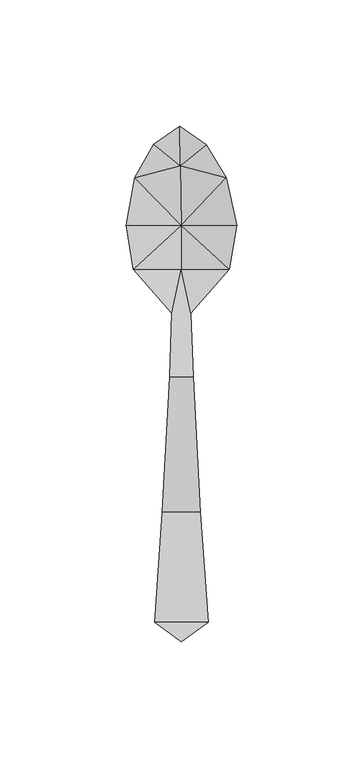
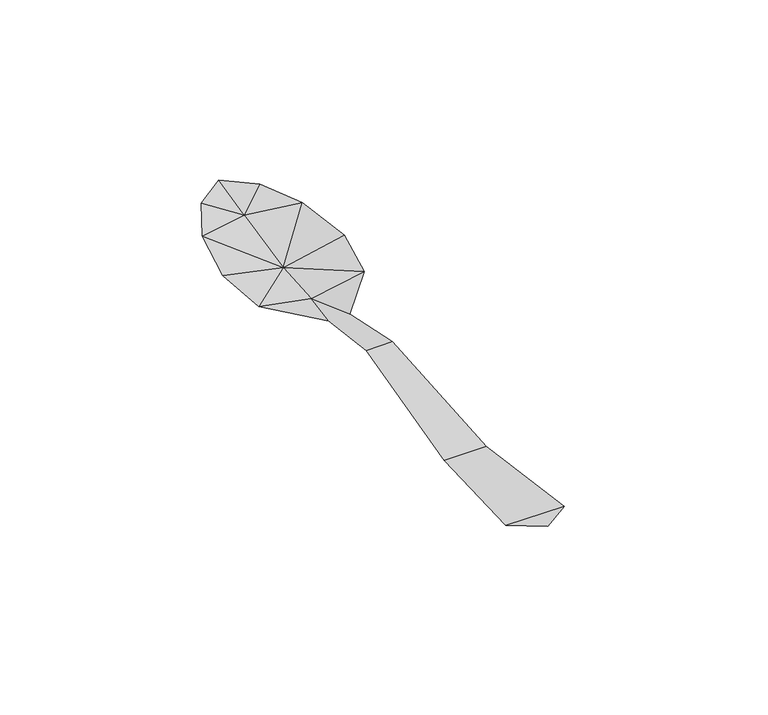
"""IFC4 building model written with IfcOpenShell, lengths in millimetres: geographic element geometry, Enscape AssetDefinition - Cutlery 004 Spoon : Enscape AssetDefinition - Cutlery 004 Spoon."""

from ifc_helpers import new_model, si_unit, origin, place, context, project, spatial, triangles, source, transform, mapped, element, save


def geographic_element_9f73c0b1(model_context):
    return source(origin(), model_context, "Body", "Tessellation", [
        triangles([(0.0, -102.4190119, 5.3321566), (-19.0861783, 45.4405267, 6.3600298), (-3.8040448, 27.990018, 6.0028614), (0.0, 45.4222593, 2.7396427), (-4.6726129, 2.8948888, 10.3781717), (4.6726129, 2.8948888, 10.3781717), (3.8040448, 27.990018, 6.0028614), (19.0861783, 45.4405267, 6.3600298), (-21.9678747, 62.9011842, 8.6643734), (0.0, 62.8768261, 3.9623351), (-18.4540301, 81.8412345, 11.0620678), (21.9678747, 62.9011842, 8.6643734), (17.7883969, 81.8412345, 11.0620678), (9.9033006, 94.9286261, 12.9432893), (-0.5925746, 102.3083991, 13.6779203), (-11.0559794, 95.0554534, 12.9432893), (-0.4667539, 86.5666183, 9.8271993), (-7.5705459, -50.9411175, 1.8933974), (7.5705459, -50.9411175, 1.8933974), (-10.5973432, -94.5186856, 4.4879406), (10.5973432, -94.5186856, 4.4879406)], [[21, 20, 1], [20, 21, 19], [18, 20, 19], [18, 19, 6], [14, 15, 17], [15, 16, 17], [13, 14, 17], [16, 11, 17], [10, 12, 13], [10, 17, 11], [8, 12, 10], [10, 13, 17], [9, 10, 11], [10, 9, 2], [10, 2, 4], [8, 10, 4], [7, 8, 4], [5, 6, 7], [5, 18, 6], [3, 7, 4], [3, 4, 2], [3, 5, 7]], closed=False),
    ])


if __name__ == "__main__":
    model = new_model("IFC4")
    model_context = context("Model", 3, world=origin())
    ifc_project = project(units=[si_unit("LENGTHUNIT", "METRE", prefix="MILLI")], contexts=[model_context])
    site = spatial("IfcSite", under=ifc_project)
    building = spatial("IfcBuilding", under=site)
    placement = place(None, origin())
    geographic_element_shape = geographic_element_9f73c0b1(model_context)
    element("IfcGeographicElement", 1, ObjectType="Enscape AssetDefinition - Cutlery 004 Spoon : Enscape AssetDefinition - Cutlery 004 Spoon", at=placement, inside=building, context=model_context, shape_type="MappedRepresentation", body=[
        mapped(geographic_element_shape, transform((0.0, 0.0, 0.0), x_axis=(1.0, 0.0, 0.0), y_axis=(0.0, 1.0, 0.0), z_axis=(0.0, 0.0, 1.0))),
    ])
    save(model, "model.ifc")
